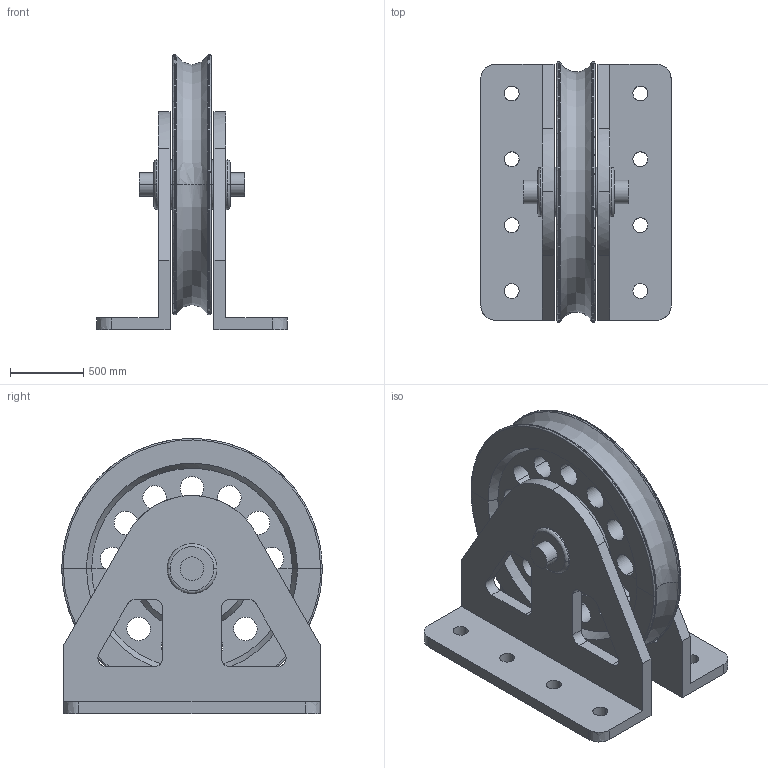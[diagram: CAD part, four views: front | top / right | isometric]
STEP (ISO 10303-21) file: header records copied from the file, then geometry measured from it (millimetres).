
FILE_DESCRIPTION(/* description */ (''),/* implementation_level */ '2;1');
FILE_NAME(/* name */ 'POULIE SIMPLE FIXE D 180',/* time_stamp */ '2005-05-31T09:01:53+02:00',/* author */ (''),/* organization */ (''),/* preprocessor_version */ 'ST-DEVELOPER v8',/* originating_system */ '',/* authorisation */ '');
FILE_SCHEMA (('CONFIG_CONTROL_DESIGN'));
Length unit declared in the file: centimetre
Products named in the file (1): 1
Bounding box: 1300 x 1780 x 1879.82 mm (x, y, z)
Volume: 813162873.7 mm3; surface area: 21346300.4 mm2
Topology: 15 solids, 15 shells, 264 faces, 624 edges, 380 vertices
Faces by surface type: bspline 264
Entity records: 10095 total; most frequent: CARTESIAN_POINT 6422, ORIENTED_EDGE 1248, EDGE_CURVE 624, VERTEX_POINT 381, B_SPLINE_CURVE_WITH_KNOTS 330, EDGE_LOOP 326, ADVANCED_FACE 264, FACE_OUTER_BOUND 264
